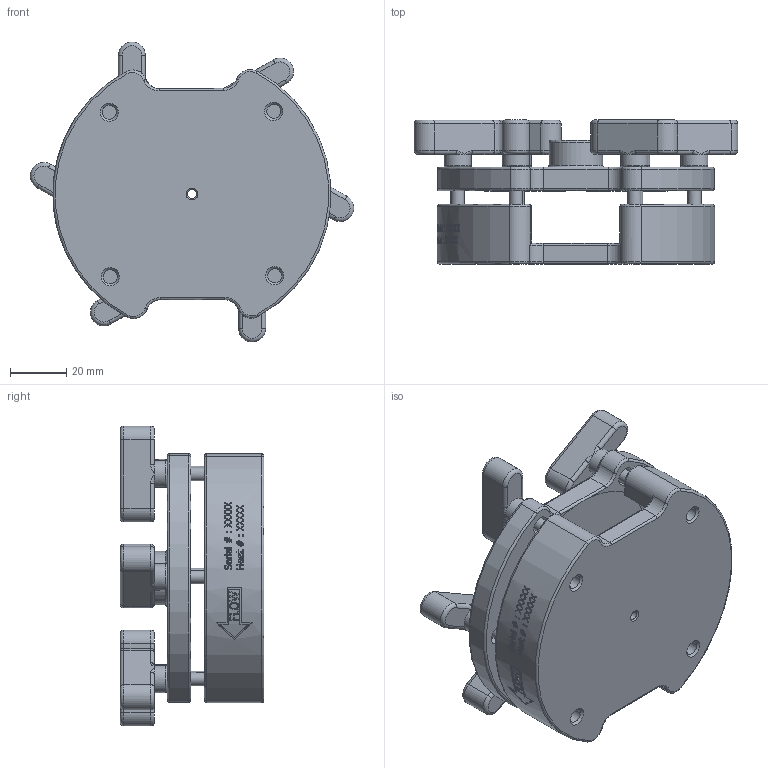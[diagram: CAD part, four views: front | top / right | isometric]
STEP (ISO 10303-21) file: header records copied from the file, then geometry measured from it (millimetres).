
FILE_DESCRIPTION(/* description */ (''),/* implementation_level */ '2;1');
FILE_NAME(/* name */ 'SDO4-CA-G3 Installation Assembly.stp',/* time_stamp */ '2024-08-16T12:55:33-04:00',/* author */ ('kdone'),/* organization */ (''),/* preprocessor_version */ 'ST-DEVELOPER v19.2',/* originating_system */ 'Autodesk Inventor 2023',/* authorisation */ '');
FILE_SCHEMA (('AUTOMOTIVE_DESIGN { 1 0 10303 214 3 1 1 }'));
Products named in the file (1): SDO4-CA-G3 Installation Assembly_Simplify_1
Bounding box: 114.84 x 51.09 x 106.46 mm (x, y, z)
Volume: 125603.9 mm3; surface area: 53705.6 mm2
Topology: 1 solids, 1 shells, 1549 faces, 4193 edges, 2729 vertices
Faces by surface type: plane 962, bspline 312, cylinder 175, torus 76, cone 24
Full cylindrical faces by diameter (mm): 3.175 x2, 4.765 x6, 4.978 x9, 6.782 x3, 7.95 x1, 9.601 x6, 19.05 x1, 73.81 x2
Entity records: 55791 total; most frequent: CARTESIAN_POINT 16199, ORIENTED_EDGE 8330, DIRECTION 7175, EDGE_CURVE 4165, LINE 2775, VECTOR 2775, VERTEX_POINT 2729, AXIS2_PLACEMENT_3D 2200
